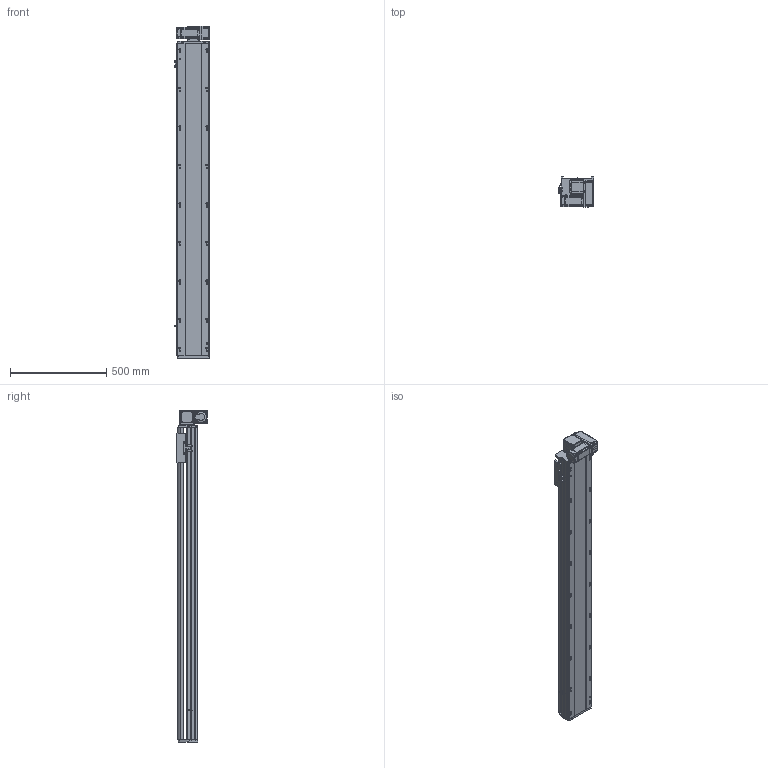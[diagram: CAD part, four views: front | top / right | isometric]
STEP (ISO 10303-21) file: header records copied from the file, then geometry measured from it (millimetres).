
FILE_DESCRIPTION (( 'STEP AP214' ), '1' );
FILE_NAME ('RTB17S-XX-1350-RM-M40-C4.STEP', '2025-12-11T08:18:37', ( '' ), ( '' ), 'SwSTEP 2.0', 'SolidWorks 2018', '' );
FILE_SCHEMA (( 'AUTOMOTIVE_DESIGN' ));
Length unit declared in the file: millimetre
Products named in the file (14): RTB14-L-018P^RTB17S-RM-々湍釱蚾饜-400W_RTB17S-XX-XX-RM-M40-C4; RTB14-L-008-M20--萇儂啣^RTB17S-RM-々湍釱蚾饜-400W_RTB17S-XX-XX-RM-M40-C4; OMRON EE-SX672 传感器^RTB17S-XX-XX-RM-M40-C4; RTB17S-XX-1350-RM-M40-C4; RTB17S-L-014-T20--々湍釱^RTB17S-RM-々湍釱蚾饜-400W_RTB17S-XX-XX-RM-M40-C4; RTH13-BL-012覜茼え俋离^RTB17S-XX-XX-RM-M40-C4; RTB17S-L-007奻裔^RTB17S-XX-XX-RM-M40-C4; 400W侜督萇儂^RTB17S-XX-XX-RM-M40-C4; RTB17S-L-004佪裝蹟譫蟀諉釱^RTB17S-XX-XX-RM-M40-C4; RTB14-L-005P--轴承塑胶压盖^RTB17S-RM-皮带座装配-400W_RTB17S-XX-XX-RM-M40-C4; RTB14-L-017P^RTB17S-RM-々湍釱蚾饜-400W_RTB17S-XX-XX-RM-M40-C4; RTB17S-RM-々湍釱蚾饜-400W^RTB17S-XX-XX-RM-M40-C4; RTB17S-L-001耜醱啣^RTB17S-XX-XX-RM-M40-C4; RTB17-R-011菁釱^RTB17S-XX-XX-RM-M40-C4
Assembly tree (16 placements, depth 3):
  RTB17S-XX-1350-RM-M40-C4
    RTB17-R-011菁釱^RTB17S-XX-XX-RM-M40-C4
    RTB17S-L-007奻裔^RTB17S-XX-XX-RM-M40-C4
    OMRON EE-SX672 传感器^RTB17S-XX-XX-RM-M40-C4  x3
    RTB17S-L-001耜醱啣^RTB17S-XX-XX-RM-M40-C4
    400W侜督萇儂^RTB17S-XX-XX-RM-M40-C4
    RTB17S-L-004佪裝蹟譫蟀諉釱^RTB17S-XX-XX-RM-M40-C4
    RTH13-BL-012覜茼え俋离^RTB17S-XX-XX-RM-M40-C4
    RTB17S-RM-々湍釱蚾饜-400W^RTB17S-XX-XX-RM-M40-C4
      RTB17S-L-014-T20--々湍釱^RTB17S-RM-々湍釱蚾饜-400W_RTB17S-XX-XX-RM-M40-C4
      RTB14-L-005P--轴承塑胶压盖^RTB17S-RM-皮带座装配-400W_RTB17S-XX-XX-RM-M40-C4
      RTB14-L-008-M20--萇儂啣^RTB17S-RM-々湍釱蚾饜-400W_RTB17S-XX-XX-RM-M40-C4
      RTB14-L-017P^RTB17S-RM-々湍釱蚾饜-400W_RTB17S-XX-XX-RM-M40-C4  x2
      RTB14-L-018P^RTB17S-RM-々湍釱蚾饜-400W_RTB17S-XX-XX-RM-M40-C4
Bounding box: 183.5 x 156.5 x 1722.5 mm (x, y, z)
Volume: 15228583 mm3; surface area: 1809316.8 mm2
Topology: 15 solids, 15 shells, 2237 faces, 6195 edges, 4041 vertices
Faces by surface type: plane 1072, cylinder 717, bspline 301, cone 139, torus 8
Entity records: 64169 total; most frequent: CARTESIAN_POINT 18000, ORIENTED_EDGE 9234, DIRECTION 8576, EDGE_CURVE 4617, VERTEX_POINT 3029, AXIS2_PLACEMENT_3D 2959, VECTOR 2658, LINE 2658
